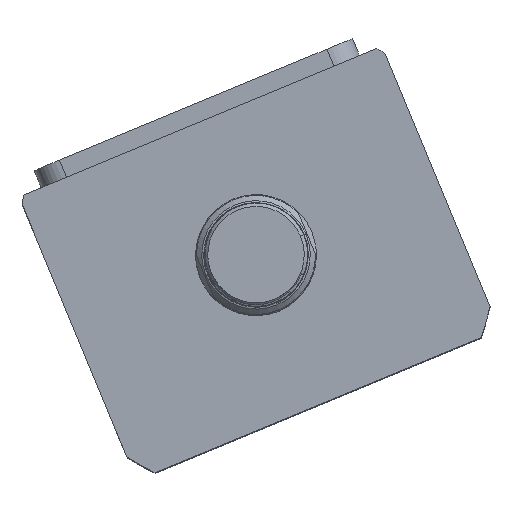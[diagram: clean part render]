
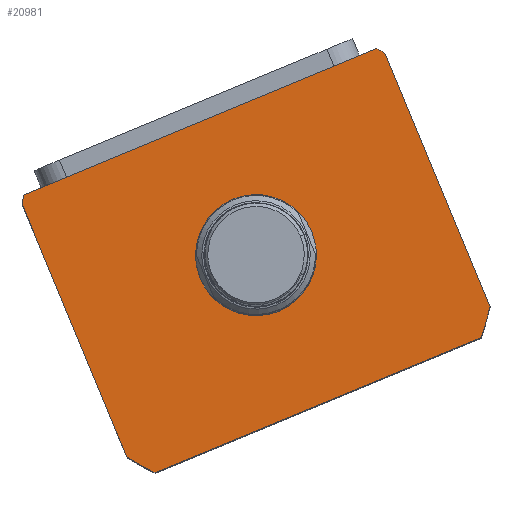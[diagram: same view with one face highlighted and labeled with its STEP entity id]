
A CAD part, top view. The second image highlights one B-rep face of the part: STEP entity #20981.
In plain terms, the highlighted planar face has unit normal (0, 0, 1) as drawn and (0, 0, -1) by its records, which use the part's own axes.
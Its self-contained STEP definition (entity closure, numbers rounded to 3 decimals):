
#558 = LINE ( 'NONE', #15998, #13041 ) ;
#595 = ORIENTED_EDGE ( 'NONE', *, *, #22163, .T. ) ;
#1349 = VECTOR ( 'NONE', #27730, 1000. ) ;
#1632 = VERTEX_POINT ( 'NONE', #4509 ) ;
#1651 = CIRCLE ( 'NONE', #12930, 69.5 ) ;
#2588 = DIRECTION ( 'NONE',  ( 0., 0., 1. ) ) ;
#2687 = DIRECTION ( 'NONE',  ( 0., 0., 1. ) ) ;
#2753 = AXIS2_PLACEMENT_3D ( 'NONE', #10986, #6538, #28117 ) ;
#2786 = DIRECTION ( 'NONE',  ( -1., 0., 0. ) ) ;
#2788 = DIRECTION ( 'NONE',  ( 0., 1., 0. ) ) ;
#2902 = DIRECTION ( 'NONE',  ( 0., 0., 1. ) ) ;
#2976 = CARTESIAN_POINT ( 'NONE',  ( 0., 2.5, 0. ) ) ;
#3040 = CARTESIAN_POINT ( 'NONE',  ( -57., 44.5, 0. ) ) ;
#3347 = EDGE_CURVE ( 'NONE', #19824, #5886, #558, .T. ) ;
#3360 = CARTESIAN_POINT ( 'NONE',  ( 51.198, -44.5, 0. ) ) ;
#4509 = CARTESIAN_POINT ( 'NONE',  ( -51.198, -44.5, 0. ) ) ;
#4551 = AXIS2_PLACEMENT_3D ( 'NONE', #2976, #18320, #11666 ) ;
#4701 = CIRCLE ( 'NONE', #17653, 69.5 ) ;
#4809 = CIRCLE ( 'NONE', #4551, 69.5 ) ;
#5886 = VERTEX_POINT ( 'NONE', #15628 ) ;
#6140 = AXIS2_PLACEMENT_3D ( 'NONE', #20828, #7849, #22975 ) ;
#6178 = CARTESIAN_POINT ( 'NONE',  ( 0., 2.5, 0. ) ) ;
#6538 = DIRECTION ( 'NONE',  ( 0., 0., 1. ) ) ;
#7170 = CARTESIAN_POINT ( 'NONE',  ( -55.374, 44.5, 0. ) ) ;
#7382 = CARTESIAN_POINT ( 'NONE',  ( -57., 44.5, 0. ) ) ;
#7475 = CIRCLE ( 'NONE', #13932, 17.5 ) ;
#7849 = DIRECTION ( 'NONE',  ( 0., 0., 1. ) ) ;
#7973 = LINE ( 'NONE', #14980, #1349 ) ;
#8426 = DIRECTION ( 'NONE',  ( 1., 0., 0. ) ) ;
#8514 = EDGE_CURVE ( 'NONE', #12433, #1632, #4809, .T. ) ;
#8775 = PLANE ( 'NONE',  #2753 ) ;
#8928 = EDGE_CURVE ( 'NONE', #1632, #27479, #7973, .T. ) ;
#9564 = AXIS2_PLACEMENT_3D ( 'NONE', #16110, #2902, #18259 ) ;
#10892 = CIRCLE ( 'NONE', #9564, 17.5 ) ;
#10986 = CARTESIAN_POINT ( 'NONE',  ( 0., 0., 0. ) ) ;
#11185 = EDGE_CURVE ( 'NONE', #20391, #14864, #1651, .T. ) ;
#11628 = CARTESIAN_POINT ( 'NONE',  ( -57., 42.265, 0. ) ) ;
#11666 = DIRECTION ( 'NONE',  ( 1., 0., 0. ) ) ;
#11685 = LINE ( 'NONE', #3040, #28061 ) ;
#12433 = VERTEX_POINT ( 'NONE', #23407 ) ;
#12783 = ORIENTED_EDGE ( 'NONE', *, *, #14934, .F. ) ;
#12930 = AXIS2_PLACEMENT_3D ( 'NONE', #15819, #2588, #17964 ) ;
#13041 = VECTOR ( 'NONE', #2788, 1000. ) ;
#13043 = CARTESIAN_POINT ( 'NONE',  ( 17.5, 2.5, 0. ) ) ;
#13072 = LINE ( 'NONE', #7382, #23784 ) ;
#13779 = ORIENTED_EDGE ( 'NONE', *, *, #26353, .T. ) ;
#13932 = AXIS2_PLACEMENT_3D ( 'NONE', #15904, #2687, #18060 ) ;
#14379 = VERTEX_POINT ( 'NONE', #15641 ) ;
#14864 = VERTEX_POINT ( 'NONE', #11628 ) ;
#14934 = EDGE_CURVE ( 'NONE', #22922, #20391, #13072, .T. ) ;
#14980 = CARTESIAN_POINT ( 'NONE',  ( -57., -44.5, 0. ) ) ;
#15043 = FACE_BOUND ( 'NONE', #26876, .T. ) ;
#15628 = CARTESIAN_POINT ( 'NONE',  ( 57., 42.265, 0. ) ) ;
#15641 = CARTESIAN_POINT ( 'NONE',  ( -17.5, 2.5, 0. ) ) ;
#15819 = CARTESIAN_POINT ( 'NONE',  ( 0., 2.5, 0. ) ) ;
#15904 = CARTESIAN_POINT ( 'NONE',  ( 0., 2.5, 0. ) ) ;
#15998 = CARTESIAN_POINT ( 'NONE',  ( 57., 44.5, 0. ) ) ;
#16110 = CARTESIAN_POINT ( 'NONE',  ( 0., 2.5, 0. ) ) ;
#16156 = ORIENTED_EDGE ( 'NONE', *, *, #8928, .F. ) ;
#17072 = EDGE_CURVE ( 'NONE', #5886, #22922, #4701, .T. ) ;
#17653 = AXIS2_PLACEMENT_3D ( 'NONE', #6178, #21377, #8426 ) ;
#17964 = DIRECTION ( 'NONE',  ( 1., 0., 0. ) ) ;
#18060 = DIRECTION ( 'NONE',  ( 1., 0., 0. ) ) ;
#18063 = EDGE_LOOP ( 'NONE', ( #26457, #22819, #19800, #16156, #21162, #23165, #27795, #12783 ) ) ;
#18259 = DIRECTION ( 'NONE',  ( 1., 0., 0. ) ) ;
#18320 = DIRECTION ( 'NONE',  ( 0., 0., 1. ) ) ;
#18382 = DIRECTION ( 'NONE',  ( 0., -1., 0. ) ) ;
#18433 = EDGE_CURVE ( 'NONE', #14864, #12433, #11685, .T. ) ;
#19317 = CIRCLE ( 'NONE', #6140, 69.5 ) ;
#19800 = ORIENTED_EDGE ( 'NONE', *, *, #27433, .F. ) ;
#19824 = VERTEX_POINT ( 'NONE', #23371 ) ;
#20391 = VERTEX_POINT ( 'NONE', #7170 ) ;
#20726 = FACE_OUTER_BOUND ( 'NONE', #18063, .T. ) ;
#20828 = CARTESIAN_POINT ( 'NONE',  ( 0., 2.5, 0. ) ) ;
#20981 = ADVANCED_FACE ( 'NONE', ( #15043, #20726 ), #8775, .F. ) ;
#21162 = ORIENTED_EDGE ( 'NONE', *, *, #8514, .F. ) ;
#21377 = DIRECTION ( 'NONE',  ( 0., 0., 1. ) ) ;
#22163 = EDGE_CURVE ( 'NONE', #24249, #14379, #7475, .T. ) ;
#22819 = ORIENTED_EDGE ( 'NONE', *, *, #3347, .F. ) ;
#22922 = VERTEX_POINT ( 'NONE', #23504 ) ;
#22975 = DIRECTION ( 'NONE',  ( 1., 0., 0. ) ) ;
#23165 = ORIENTED_EDGE ( 'NONE', *, *, #18433, .F. ) ;
#23371 = CARTESIAN_POINT ( 'NONE',  ( 57., -37.265, 0. ) ) ;
#23407 = CARTESIAN_POINT ( 'NONE',  ( -57., -37.265, 0. ) ) ;
#23504 = CARTESIAN_POINT ( 'NONE',  ( 55.374, 44.5, 0. ) ) ;
#23784 = VECTOR ( 'NONE', #2786, 1000. ) ;
#24249 = VERTEX_POINT ( 'NONE', #13043 ) ;
#26353 = EDGE_CURVE ( 'NONE', #14379, #24249, #10892, .T. ) ;
#26457 = ORIENTED_EDGE ( 'NONE', *, *, #17072, .F. ) ;
#26876 = EDGE_LOOP ( 'NONE', ( #595, #13779 ) ) ;
#27433 = EDGE_CURVE ( 'NONE', #27479, #19824, #19317, .T. ) ;
#27479 = VERTEX_POINT ( 'NONE', #3360 ) ;
#27730 = DIRECTION ( 'NONE',  ( 1., 0., 0. ) ) ;
#27795 = ORIENTED_EDGE ( 'NONE', *, *, #11185, .F. ) ;
#28061 = VECTOR ( 'NONE', #18382, 1000. ) ;
#28117 = DIRECTION ( 'NONE',  ( 1., 0., 0. ) ) ;
